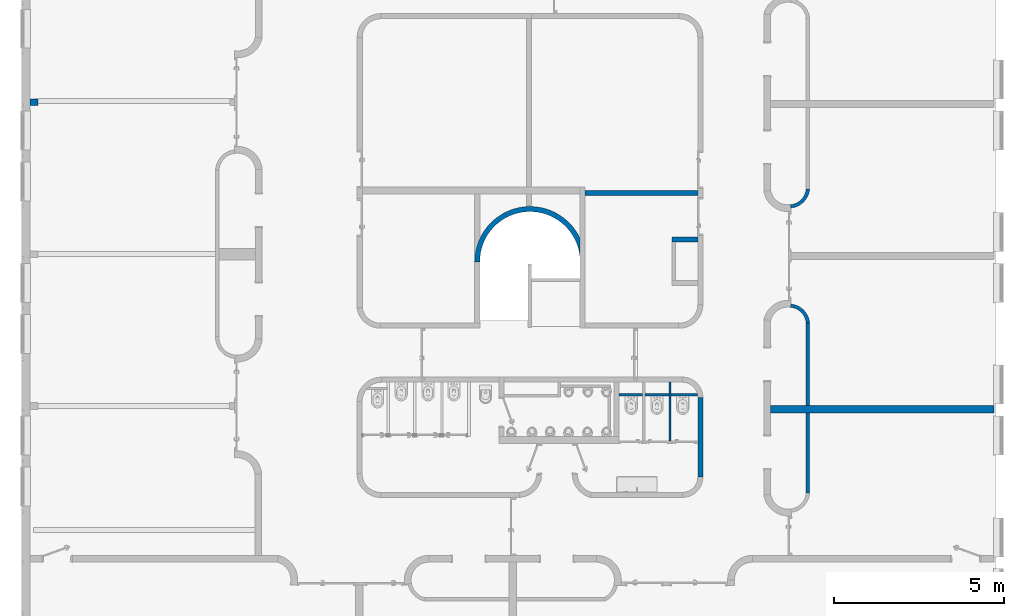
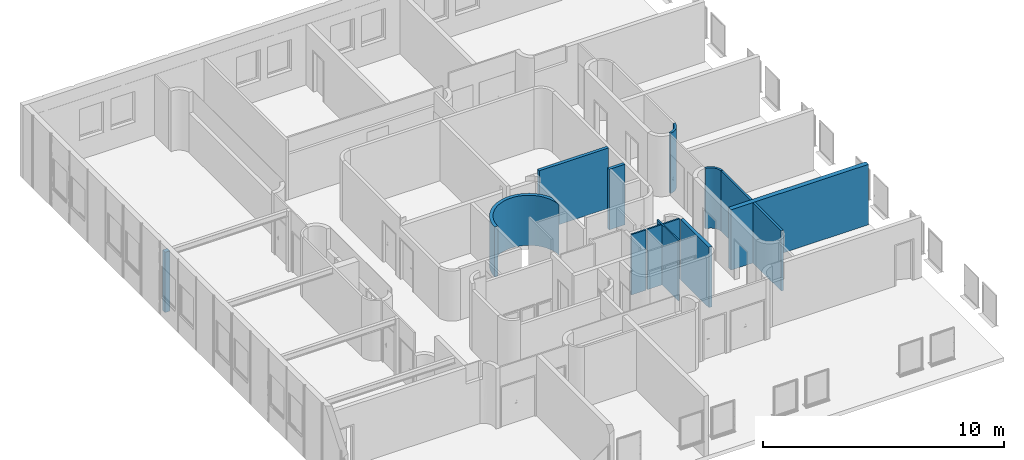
# One storey, part 2 of 7: 11 walls.
"""IFC2X3 building model written with IfcOpenShell, lengths in metres."""

from ifc_helpers import new_model, entity, si_unit, converted_unit, derived_unit, direction, frame, frame_2d, origin, place, context, subcontext, project, spatial, polyline, circle_curve, parameter, trimmed, segment, composite_curve, rectangle, outline, extrude, clip, halfspace, bounded_halfspace, material, layer, layer_set, layer_usage, type_object, element, save


model = new_model("IFC2X3")

# Units and contexts
model_context = context("Model", 3, precision=1e-05, world=origin(), true_north=direction((6.12303176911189e-17, 1.0)))
body_context = subcontext(model_context, "Body", "Model", "MODEL_VIEW")
ifc_project = project(units=[si_unit("LENGTHUNIT", "METRE"), si_unit("AREAUNIT", "SQUARE_METRE"), si_unit("VOLUMEUNIT", "CUBIC_METRE"), converted_unit("PLANEANGLEUNIT", "DEGREE", entity("IfcRatioMeasure", 0.0174532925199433), si_unit("PLANEANGLEUNIT", "RADIAN"), dimensions=[0, 0, 0, 0, 0, 0, 0]), si_unit("MASSUNIT", "GRAM", prefix="KILO"), derived_unit("MASSDENSITYUNIT", [(si_unit("MASSUNIT", "GRAM", prefix="KILO"), 1), (si_unit("LENGTHUNIT", "METRE"), -3)]), derived_unit("MOMENTOFINERTIAUNIT", [(si_unit("LENGTHUNIT", "METRE"), 4)]), si_unit("TIMEUNIT", "SECOND"), si_unit("FREQUENCYUNIT", "HERTZ"), si_unit("THERMODYNAMICTEMPERATUREUNIT", "DEGREE_CELSIUS"), derived_unit("THERMALTRANSMITTANCEUNIT", [(si_unit("MASSUNIT", "GRAM", prefix="KILO"), 1), (si_unit("THERMODYNAMICTEMPERATUREUNIT", "KELVIN"), -1), (si_unit("TIMEUNIT", "SECOND"), -3)]), derived_unit("VOLUMETRICFLOWRATEUNIT", [(si_unit("LENGTHUNIT", "METRE"), 3), (si_unit("TIMEUNIT", "SECOND"), -1)]), si_unit("ELECTRICCURRENTUNIT", "AMPERE"), si_unit("ELECTRICVOLTAGEUNIT", "VOLT"), si_unit("POWERUNIT", "WATT"), si_unit("FORCEUNIT", "NEWTON", prefix="KILO"), si_unit("ILLUMINANCEUNIT", "LUX"), si_unit("LUMINOUSFLUXUNIT", "LUMEN"), si_unit("LUMINOUSINTENSITYUNIT", "CANDELA"), derived_unit("USERDEFINED", [(si_unit("MASSUNIT", "GRAM", prefix="KILO"), -1), (si_unit("LENGTHUNIT", "METRE"), -2), (si_unit("TIMEUNIT", "SECOND"), 3), (si_unit("LUMINOUSFLUXUNIT", "LUMEN"), 1)]), derived_unit("LINEARVELOCITYUNIT", [(si_unit("LENGTHUNIT", "METRE"), 1), (si_unit("TIMEUNIT", "SECOND"), -1)]), si_unit("PRESSUREUNIT", "PASCAL"), derived_unit("USERDEFINED", [(si_unit("LENGTHUNIT", "METRE"), -2), (si_unit("MASSUNIT", "GRAM", prefix="KILO"), 1), (si_unit("TIMEUNIT", "SECOND"), -2)]), derived_unit("LINEARFORCEUNIT", [(si_unit("MASSUNIT", "GRAM", prefix="KILO"), 1), (si_unit("LENGTHUNIT", "METRE"), 1), (si_unit("TIMEUNIT", "SECOND"), -2), (si_unit("LENGTHUNIT", "METRE"), -1)]), derived_unit("PLANARFORCEUNIT", [(si_unit("MASSUNIT", "GRAM", prefix="KILO"), 1), (si_unit("LENGTHUNIT", "METRE"), 1), (si_unit("TIMEUNIT", "SECOND"), -2), (si_unit("LENGTHUNIT", "METRE"), -2)])], contexts=[model_context])

# Site, building, storey
site_placement = place(None, origin())
site = spatial("IfcSite", under=ifc_project, at=site_placement, Name="Default", CompositionType="ELEMENT")
building_placement = place(site_placement, origin())
building = spatial("IfcBuilding", under=site, at=building_placement, CompositionType="ELEMENT")
storey_placement = place(building_placement, frame((0.0, 0.0, 7.36730827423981)))
storey = spatial("IfcBuildingStorey", under=building, at=storey_placement, Name="Niveau 2", CompositionType="ELEMENT", Elevation=7.36730827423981)

# Walls
ifc_material_1 = material(Name="Maçonnerie - Voile BA")
ifc_layer_1 = layer(ifc_material_1, 0.2)
ifc_layer_set_1 = layer_set([ifc_layer_1], Name="Mur de base:Ext. Voile BA 200")
ifc_layer_usage_1 = layer_usage(ifc_layer_set_1, "AXIS2", "NEGATIVE", 0.1)
wall_type_1 = type_object("IfcWallType", Name="Mur de base:Ext. Voile BA 200", PredefinedType="STANDARD", material=ifc_layer_set_1)
wall_1_placement = place(storey_placement, frame((-25.5939891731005, -0.6616883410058, 0.0)))
element("IfcWallStandardCase", 1, at=wall_1_placement, inside=storey, type_object=wall_type_1, material=ifc_layer_usage_1, Name="Mur de base:Ext. Voile BA 200", ObjectType="Mur de base:Ext. Voile BA 200", context=body_context, shape_type="Clipping", body=[
    clip(extrude(rectangle(XDim=0.232473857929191, YDim=0.2, at=frame_2d((0.116236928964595, -1.38777878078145e-17), x_axis=(-1.0, 0.0))), origin(), (0.0, 0.0, 1.0), 3.05600000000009), bounded_halfspace(frame((0.0, -0.1, 3.05600000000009), z_axis=(0.0, 0.0, -1.0), x_axis=(0.0, 1.0, 0.0)), True, frame((0.0, -0.1, 3.05600000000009)), polyline([(0.0, 0.0), (0.232473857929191, 0.0), (0.23247385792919, 0.2), (0.0, 0.2), (0.0, 0.0)]))),
])
ifc_material_2 = material(Name="Brique 55x220")
ifc_layer_2 = layer(ifc_material_2, 0.01)
ifc_layer_3 = layer(ifc_material_1, 0.2)
ifc_layer_4 = layer(ifc_material_2, 0.01)
ifc_layer_set_2 = layer_set([ifc_layer_2, ifc_layer_3, ifc_layer_4], Name="Mur de base:Ext. Voile BA 200 Brique")
ifc_layer_usage_2 = layer_usage(ifc_layer_set_2, "AXIS2", "POSITIVE", -0.11)
wall_type_2 = type_object("IfcWallType", Name="Mur de base:Ext. Voile BA 200 Brique", PredefinedType="STANDARD", material=ifc_layer_set_2)
wall_2_placement = place(storey_placement, frame((-3.74398917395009, -9.72374943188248, 0.0)))
element("IfcWallStandardCase", 2, at=wall_2_placement, inside=storey, type_object=wall_type_2, material=ifc_layer_usage_2, Name="Mur de base:Ext. Voile BA 200 Brique", ObjectType="Mur de base:Ext. Voile BA 200 Brique", context=body_context, shape_type="Clipping", body=[
    clip(extrude(rectangle(XDim=6.5914574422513, YDim=0.220000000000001, at=frame_2d((3.29572872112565, -1.10328413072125e-15), x_axis=(-1.0, 0.0))), origin(), (0.0, 0.0, 1.0), 3.05600000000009), bounded_halfspace(frame((0.0, -0.110000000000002, 3.05600000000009), z_axis=(0.0, 0.0, -1.0), x_axis=(0.0, 1.0, 0.0)), True, frame((0.0, -0.110000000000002, 3.05600000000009)), polyline([(0.0, 0.0), (1.04990904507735, 0.0), (1.14990904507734, 0.0), (6.59145744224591, 0.0), (6.59145744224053, 0.220000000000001), (1.14990904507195, 0.220000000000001), (1.04990904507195, 0.220000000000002), (0.0, 0.220000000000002), (0.0, 0.0)]))),
])
ifc_material_3 = material(Name="Mur par défaut")
ifc_layer_5 = layer(ifc_material_3, 0.1)
ifc_layer_set_3 = layer_set([ifc_layer_5], Name="Mur de base:@_Générique - Int. 100 mm")
wall_type_3 = type_object("IfcWallType", Name="Mur de base:@_Générique - Int. 100 mm", PredefinedType="STANDARD", material=ifc_layer_set_3)
wall_3_placement = place(storey_placement, frame((-2.64408012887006, -12.1855995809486, 0.0), z_axis=(0.0, 0.0, 1.0), x_axis=(0.0, 1.0, 0.0)))
element("IfcWall", 3, at=wall_3_placement, inside=storey, type_object=wall_type_3, Name="Mur de base:@_Générique - Int. 100 mm", ObjectType="Mur de base:@_Générique - Int. 100 mm", context=body_context, shape_type="SweptSolid", body=[
    extrude(outline(polyline([(-1.17693812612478, -0.0500000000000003), (1.17491202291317, -0.0500000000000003), (1.17491202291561, 0.0499999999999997), (-1.172885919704, 0.0499999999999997), (-1.17693812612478, -0.0500000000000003)])), frame((1.17693812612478, 0.0, 0.0)), (0.0, 0.0, 1.0), 3.05600000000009),
    extrude(outline(polyline([(-1.21505255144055, -0.0500000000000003), (1.21710552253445, -0.0500000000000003), (1.2171055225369, 0.0499999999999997), (-1.21915849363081, 0.0499999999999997), (-1.21505255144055, -0.0500000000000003)])), frame((3.78895567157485, 0.0, 0.0), z_axis=(0.0, 0.0, 1.0), x_axis=(-1.0, 0.0, 0.0)), (0.0, 0.0, 1.0), 3.05600000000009),
])
ifc_layer_usage_3 = layer_usage(ifc_layer_set_3, "AXIS2", "NEGATIVE", 0.05)
wall_4_placement = place(storey_placement, frame((-2.64392581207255, -7.18141070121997, 0.0), z_axis=(0.0, 0.0, 1.0), x_axis=(0.984807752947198, -0.17364817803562, 0.0)))
element("IfcWallStandardCase", 4, at=wall_4_placement, inside=storey, type_object=wall_type_3, material=ifc_layer_usage_3, Name="Mur de base:@_Générique - Int. 100 mm", ObjectType="Mur de base:@_Générique - Int. 100 mm", context=body_context, shape_type="Clipping", body=[
    clip(extrude(outline(composite_curve([segment(trimmed(circle_curve(frame_2d((-0.546996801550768, -0.14149027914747), x_axis=(1.0, 0.0)), 0.515), [parameter(14.9206973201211)], [parameter(94.3281832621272)], True, "PARAMETER"), False, "CONTINUOUS"), segment(polyline([(-0.0493609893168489, -0.00888711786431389), (0.0484067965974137, 0.0125212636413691)]), True, "CONTINUOUS"), segment(trimmed(circle_curve(frame_2d((-0.546996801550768, -0.14149027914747), x_axis=(1.0, 0.0)), 0.615), [parameter(14.5026790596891)], [parameter(94.3281832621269)], True, "PARAMETER"), True, "CONTINUOUS"), segment(polyline([(-0.593410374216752, 0.471755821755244), (-0.585863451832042, 0.37204100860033)]), True, "CONTINUOUS")], self_intersect=False)), origin(), (0.0, 0.0, 1.0), 3.05600000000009), halfspace(frame((-0.585863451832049, 0.372041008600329, 3.05600000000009), z_axis=(0.0, 0.0, -1.0), x_axis=(-0.17364817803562, 0.984807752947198, 0.0)), True)),
])
ifc_layer_usage_4 = layer_usage(ifc_layer_set_3, "AXIS2", "NEGATIVE", 0.05)
wall_5_placement = place(storey_placement, frame((-2.64392581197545, -3.2162084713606, 0.0), z_axis=(0.0, 0.0, 1.0), x_axis=(0.984807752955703, 0.173648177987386, 0.0)))
element("IfcWallStandardCase", 5, at=wall_5_placement, inside=storey, type_object=wall_type_3, material=ifc_layer_usage_4, Name="Mur de base:@_Générique - Int. 100 mm", ObjectType="Mur de base:@_Générique - Int. 100 mm", context=body_context, shape_type="Clipping", body=[
    clip(extrude(outline(polyline([(-0.596526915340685, -0.471511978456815), (-0.593332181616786, -0.471759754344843), (-0.507749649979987, -0.472256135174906), (-0.422903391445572, -0.460859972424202), (-0.34046164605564, -0.437792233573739), (-0.262021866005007, -0.403499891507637), (-0.189103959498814, -0.358647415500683), (-0.12312083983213, -0.304103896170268), (-0.0653510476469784, -0.240926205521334), (-0.0169139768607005, -0.170338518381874), (0.0212518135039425, -0.093708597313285), (0.0484067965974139, -0.012521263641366), (-0.0493609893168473, 0.00888711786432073), (-0.0751435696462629, -0.0648577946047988), (-0.111783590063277, -0.133853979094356), (-0.158438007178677, -0.196514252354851), (-0.214033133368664, -0.251396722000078), (-0.277289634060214, -0.297238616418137), (-0.346751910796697, -0.332985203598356), (-0.420821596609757, -0.357814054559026), (-0.497794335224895, -0.371153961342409), (-0.575806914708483, -0.372695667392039), (-0.588473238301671, -0.371836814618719), (-0.596526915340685, -0.471511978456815)])), origin(), (0.0, 0.0, 1.0), 3.05600000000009), bounded_halfspace(frame((-0.596526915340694, -0.471511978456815, 3.05600000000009), z_axis=(0.0, 0.0, -1.0), x_axis=(0.173648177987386, 0.984807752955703, 0.0)), True, frame((-0.596526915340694, -0.471511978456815, 3.05600000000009)), composite_curve([segment(trimmed(circle_curve(frame_2d((0.0150967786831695, 0.186843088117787), x_axis=(1.0, 0.0)), 0.615), [parameter(265.38058002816)], [parameter(265.677292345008)], True, "PARAMETER"), True, "CONTINUOUS"), segment(trimmed(circle_curve(frame_2d((0.0150967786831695, 0.186843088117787), x_axis=(1.0, 0.0)), 0.615), [parameter(265.677292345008)], [parameter(345.49732094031)], True, "PARAMETER"), True, "CONTINUOUS"), segment(polyline([(0.196575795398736, 0.139900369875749), (0.166776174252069, 0.146425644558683)]), True, "CONTINUOUS"), segment(trimmed(circle_curve(frame_2d((0.0150967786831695, 0.186843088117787), x_axis=(1.0, 0.0)), 0.515), [parameter(266.784433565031)], [parameter(345.079302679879)], True, "PARAMETER"), False, "CONTINUOUS"), segment(trimmed(circle_curve(frame_2d((0.0150967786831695, 0.186843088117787), x_axis=(1.0, 0.0)), 0.515), [parameter(265.38058002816)], [parameter(266.784433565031)], True, "PARAMETER"), False, "CONTINUOUS"), segment(polyline([(0.00245476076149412, 0.0303809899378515), (0.0, 0.0)]), True, "CONTINUOUS")], self_intersect=False))),
])
ifc_layer_6 = layer(ifc_material_1, 0.15)
ifc_layer_set_4 = layer_set([ifc_layer_6], Name="Mur de base:Ext. Voile BA 150")
ifc_layer_usage_5 = layer_usage(ifc_layer_set_4, "AXIS2", "NEGATIVE", 0.075)
wall_type_4 = type_object("IfcWallType", Name="Mur de base:Ext. Voile BA 150", PredefinedType="STANDARD", material=ifc_layer_set_4)
wall_6_placement = place(storey_placement, frame((-5.8939891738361, -3.34411513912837, 0.0), z_axis=(0.0, 0.0, 1.0), x_axis=(-1.0, 0.0, 0.0)))
element("IfcWallStandardCase", 6, at=wall_6_placement, inside=storey, type_object=wall_type_4, material=ifc_layer_usage_5, Name="Mur de base:Ext. Voile BA 150", ObjectType="Mur de base:Ext. Voile BA 150", context=body_context, shape_type="Clipping", body=[
    clip(extrude(rectangle(XDim=3.31999999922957, YDim=0.149999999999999, at=frame_2d((1.65999999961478, 1.73472347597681e-16), x_axis=(-1.0, 0.0))), origin(), (0.0, 0.0, 1.0), 3.05600000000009), bounded_halfspace(frame((0.0, -0.0750000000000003, 3.05600000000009), z_axis=(0.0, 0.0, -1.0), x_axis=(0.0, -1.0, 0.0)), True, frame((0.0, -0.0750000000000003, 3.05600000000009)), polyline([(0.0, 0.0), (3.31999999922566, 0.0), (3.31999999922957, 0.150000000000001), (0.0, 0.15), (0.0, 0.0)]))),
])
ifc_layer_usage_6 = layer_usage(ifc_layer_set_4, "AXIS2", "NEGATIVE", 0.075)
wall_7_placement = place(storey_placement, frame((-9.28905251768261, -5.30521851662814, 0.0), z_axis=(0.0, 0.0, 1.0), x_axis=(-0.580872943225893, 0.813994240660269, 0.0)))
element("IfcWallStandardCase", 7, at=wall_7_placement, inside=storey, type_object=wall_type_4, material=ifc_layer_usage_6, Name="Mur de base:Ext. Voile BA 150", ObjectType="Mur de base:Ext. Voile BA 150", context=body_context, shape_type="Clipping", body=[
    clip(extrude(outline(composite_curve([segment(polyline([(0.0410200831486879, 0.0627881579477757), (0.549681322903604, -0.300196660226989)]), True, "CONTINUOUS"), segment(polyline([(0.549681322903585, -0.300196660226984), (0.6856873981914, -0.319840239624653)]), True, "CONTINUOUS"), segment(polyline([(0.6856873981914, -0.319840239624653), (0.822863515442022, -0.32795817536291)]), True, "CONTINUOUS"), segment(polyline([(0.822863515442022, -0.32795817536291), (0.960235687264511, -0.32449301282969)]), True, "CONTINUOUS"), segment(polyline([(0.960235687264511, -0.32449301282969), (1.0968273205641, -0.309469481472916)]), True, "CONTINUOUS"), segment(polyline([(1.0968273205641, -0.309469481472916), (1.23166769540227, -0.28299447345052)]), True, "CONTINUOUS"), segment(polyline([(1.23166769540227, -0.28299447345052), (1.36379855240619, -0.245256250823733)]), True, "CONTINUOUS"), segment(polyline([(1.36379855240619, -0.245256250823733), (1.49228090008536, -0.196523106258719)]), True, "CONTINUOUS"), segment(polyline([(1.49228090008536, -0.196523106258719), (1.6162016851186, -0.137141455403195)]), True, "CONTINUOUS"), segment(polyline([(1.6162016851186, -0.137141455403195), (1.7346802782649, -0.0675333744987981)]), True, "CONTINUOUS"), segment(polyline([(1.7346802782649, -0.0675333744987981), (1.84687472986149, 0.0118063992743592)]), True, "CONTINUOUS"), segment(polyline([(1.84687472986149, 0.0118063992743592), (1.95198775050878, 0.100313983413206)]), True, "CONTINUOUS"), segment(polyline([(1.95198775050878, 0.100313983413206), (2.04927237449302, 0.19736035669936)]), True, "CONTINUOUS"), segment(polyline([(2.04927237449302, 0.19736035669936), (2.13803726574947, 0.30225582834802)]), True, "CONTINUOUS"), segment(polyline([(2.13803726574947, 0.30225582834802), (2.21765162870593, 0.414254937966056)]), True, "CONTINUOUS"), segment(polyline([(2.21765162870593, 0.414254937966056), (2.28754968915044, 0.532561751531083)]), True, "CONTINUOUS"), segment(polyline([(2.28754968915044, 0.532561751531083), (2.34723471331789, 0.656335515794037)]), True, "CONTINUOUS"), segment(polyline([(2.34723471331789, 0.656335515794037), (2.39628253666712, 0.784696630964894)]), True, "CONTINUOUS"), segment(polyline([(2.39628253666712, 0.784696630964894), (2.4343445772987, 0.916732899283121)]), True, "CONTINUOUS"), segment(polyline([(2.4343445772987, 0.916732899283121), (2.46115031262, 1.05150600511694)]), True, "CONTINUOUS"), segment(polyline([(2.46115031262, 1.05150600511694), (2.47650920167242, 1.18805818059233)]), True, "CONTINUOUS"), segment(polyline([(2.47650920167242, 1.18805818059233), (2.48031203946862, 1.32541900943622)]), True, "CONTINUOUS"), segment(polyline([(2.48031203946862, 1.32541900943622), (2.47253173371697, 1.46261232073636)]), True, "CONTINUOUS"), segment(polyline([(2.47253173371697, 1.46261232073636), (2.45322349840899, 1.59866312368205)]), True, "CONTINUOUS"), segment(polyline([(2.45322349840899, 1.59866312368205), (2.42252446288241, 1.73260453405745)]), True, "CONTINUOUS"), segment(polyline([(2.42252446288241, 1.73260453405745), (2.38065269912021, 1.86348464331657)]), True, "CONTINUOUS"), segment(polyline([(2.38065269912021, 1.86348464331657), (2.32790567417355, 1.9903732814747)]), True, "CONTINUOUS"), segment(polyline([(2.32790567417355, 1.9903732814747), (2.26466053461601, 2.11236414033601)]), True, "CONTINUOUS"), segment(polyline([(2.26466053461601, 2.11236414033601), (2.18970940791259, 2.23098636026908)]), True, "CONTINUOUS"), segment(polyline([(2.18970940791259, 2.23098636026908), (2.10483702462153, 2.34271900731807)]), True, "CONTINUOUS"), segment(polyline([(2.10483702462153, 2.34271900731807), (2.01066986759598, 2.44673862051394)]), True, "CONTINUOUS"), segment(polyline([(2.01066986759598, 2.44673862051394), (1.90790573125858, 2.54227436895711)]), True, "CONTINUOUS"), segment(polyline([(1.90790573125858, 2.54227436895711), (1.79730595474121, 2.6286184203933)]), True, "CONTINUOUS"), segment(polyline([(1.7973059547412, 2.62861842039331), (1.71017501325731, 2.50651928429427)]), True, "CONTINUOUS"), segment(trimmed(circle_curve(frame_2d((0.850483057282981, 1.30180780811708), x_axis=(1.0, 0.0)), 1.48), [parameter(236.843043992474)], [parameter(54.4880357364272)], True, "PARAMETER"), False, "CONTINUOUS")], self_intersect=False)), origin(), (0.0, 0.0, 1.0), 2.5360000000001), bounded_halfspace(frame((1.71017501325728, 2.50651928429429, 2.5360000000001), z_axis=(0.0, 0.0, -1.0), x_axis=(0.813994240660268, -0.580872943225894, 0.0)), True, frame((1.71017501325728, 2.50651928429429, 2.5360000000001), z_axis=(0.0, 0.0, -1.0), x_axis=(0.813994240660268, -0.580872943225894, 0.0)), composite_curve([segment(polyline([(0.0, 0.0), (0.0, -0.00038100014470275)]), True, "CONTINUOUS"), segment(polyline([(0.0, -0.00038100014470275), (0.0, -0.045720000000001)]), True, "CONTINUOUS"), segment(trimmed(circle_curve(frame_2d((0.0, 0.451104), x_axis=(0.813994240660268, -0.580872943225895)), 1.63), [parameter(305.511964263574)], [parameter(330.179838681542)], True, "PARAMETER"), True, "CONTINUOUS"), segment(trimmed(circle_curve(frame_2d((0.0, 0.451104), x_axis=(0.813994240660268, -0.580872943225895)), 1.63), [parameter(330.179838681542)], [parameter(100.634369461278)], True, "PARAMETER"), True, "CONTINUOUS"), segment(polyline([(0.209004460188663, 0.901826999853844), (0.0185363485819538, 0.901826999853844)]), True, "CONTINUOUS"), segment(trimmed(circle_curve(frame_2d((0.0, 0.451104), x_axis=(0.813994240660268, -0.580872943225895)), 1.48), [parameter(305.511964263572)], [parameter(123.156956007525)], True, "PARAMETER"), False, "CONTINUOUS")], self_intersect=False))),
])
ifc_layer_usage_7 = layer_usage(ifc_layer_set_4, "AXIS2", "NEGATIVE", 0.075)
wall_8_placement = place(storey_placement, frame((-5.8939891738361, -4.70912808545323, 0.0), z_axis=(0.0, 0.0, 1.0), x_axis=(-1.0, 0.0, 0.0)))
element("IfcWallStandardCase", 8, at=wall_8_placement, inside=storey, type_object=wall_type_4, material=ifc_layer_usage_7, Name="Mur de base:Ext. Voile BA 150", ObjectType="Mur de base:Ext. Voile BA 150", context=body_context, shape_type="Clipping", body=[
    clip(extrude(rectangle(XDim=0.756621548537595, YDim=0.149999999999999, at=frame_2d((0.378310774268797, 1.31838984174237e-16), x_axis=(-1.0, 0.0))), origin(), (0.0, 0.0, 1.0), 3.05600000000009), bounded_halfspace(frame((0.0, -0.0750000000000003, 3.05600000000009), z_axis=(0.0, 0.0, -1.0), x_axis=(0.0, -1.0, 0.0)), True, frame((0.0, -0.0750000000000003, 3.05600000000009)), polyline([(0.0, 0.0), (0.756621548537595, 0.0), (0.756621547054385, 0.15), (0.656621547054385, 0.150000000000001), (0.0, 0.15), (0.0, 0.0)]))),
])
ifc_layer_7 = layer(ifc_material_3, 0.15)
ifc_layer_set_5 = layer_set([ifc_layer_7], Name="Mur de base:@_Générique - Int. 150 mm")
ifc_layer_usage_8 = layer_usage(ifc_layer_set_5, "AXIS2", "NEGATIVE", 0.075)
wall_type_5 = type_object("IfcWallType", Name="Mur de base:@_Générique - Int. 150 mm", PredefinedType="STANDARD", material=ifc_layer_set_5)
wall_9_placement = place(storey_placement, frame((-5.81898916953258, -9.37125785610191, 0.0), z_axis=(0.0, 0.0, 1.0), x_axis=(0.0, -1.0, 0.0)))
element("IfcWallStandardCase", 9, at=wall_9_placement, inside=storey, type_object=wall_type_5, material=ifc_layer_usage_8, Name="Mur de base:@_Générique - Int. 150 mm", ObjectType="Mur de base:@_Générique - Int. 150 mm", context=body_context, shape_type="Clipping", body=[
    clip(extrude(rectangle(XDim=2.34781436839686, YDim=0.150000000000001, at=frame_2d((1.17390718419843, 1.11022302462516e-16), x_axis=(-1.0, 0.0))), origin(), (0.0, 0.0, 1.0), 3.05600000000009), bounded_halfspace(frame((0.0, -0.0749999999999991, 3.05600000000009), z_axis=(0.0, 0.0, -1.0), x_axis=(-1.0, 0.0, 0.0)), True, frame((0.0, -0.0749999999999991, 3.05600000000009)), polyline([(0.0, 0.0), (2.34781436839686, 0.0), (2.34781436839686, 0.15), (0.0, 0.149999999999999), (0.0, 0.0)]))),
])
ifc_layer_8 = layer(ifc_material_3, 0.07)
ifc_layer_set_6 = layer_set([ifc_layer_8], Name="Mur de base:@_Générique - Int. 70 mm")
ifc_layer_usage_9 = layer_usage(ifc_layer_set_6, "AXIS2", "NEGATIVE", 0.035)
wall_type_6 = type_object("IfcWallType", Name="Mur de base:@_Générique - Int. 70 mm", PredefinedType="STANDARD", material=ifc_layer_set_6)
wall_10_placement = place(storey_placement, frame((-6.71229879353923, -8.92125785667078, 0.0), z_axis=(0.0, 0.0, 1.0), x_axis=(0.0, -1.0, 0.0)))
element("IfcWallStandardCase", 10, at=wall_10_placement, inside=storey, type_object=wall_type_6, material=ifc_layer_usage_9, Name="Mur de base:@_Générique - Int. 70 mm", ObjectType="Mur de base:@_Générique - Int. 70 mm", context=body_context, shape_type="Clipping", body=[
    clip(extrude(rectangle(XDim=1.7360824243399, YDim=0.0699999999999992, at=frame_2d((0.86804121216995, -4.82253126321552e-16), x_axis=(-1.0, 0.0))), origin(), (0.0, 0.0, 1.0), 3.05600000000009), bounded_halfspace(frame((0.0, -0.0350000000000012, 3.05600000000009), z_axis=(0.0, 0.0, -1.0), x_axis=(-1.0, 0.0, 0.0)), True, frame((0.0, -0.0350000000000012, 3.05600000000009)), polyline([(0.0, 0.0), (0.330357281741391, 0.0), (0.400357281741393, 0.0), (1.7360824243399, 0.0), (1.73608242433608, 0.0699999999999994), (0.40035728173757, 0.0699999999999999), (0.330357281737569, 0.0700000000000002), (0.0, 0.0700000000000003), (0.0, 0.0)]))),
])
wall_11_placement = place(storey_placement, frame((-5.89673577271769, -9.28661513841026, 0.0), z_axis=(0.0, 0.0, 1.0), x_axis=(-1.0, 0.0, 0.0)))
element("IfcWall", 11, at=wall_11_placement, inside=storey, type_object=wall_type_6, Name="Mur de base:@_Générique - Int. 70 mm", ObjectType="Mur de base:@_Générique - Int. 70 mm", context=body_context, shape_type="SweptSolid", body=[
    extrude(outline(composite_curve([segment(polyline([(-0.380194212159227, -0.0349999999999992), (0.386919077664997, -0.035)]), True, "CONTINUOUS"), segment(polyline([(0.386919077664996, -0.0350000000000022), (0.386919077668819, 0.0349999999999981)]), True, "CONTINUOUS"), segment(polyline([(0.386919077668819, 0.0350000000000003), (-0.393643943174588, 0.0350000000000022)]), True, "CONTINUOUS"), segment(trimmed(circle_curve(frame_2d((0.0536094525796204, 0.0846427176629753), x_axis=(0.0, -1.0)), 0.449999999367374), [parameter(276.333598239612)], [parameter(285.41881560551)], True, "PARAMETER"), True, "CONTINUOUS")], self_intersect=False)), frame((0.393643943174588, 0.0, 0.0)), (0.0, 0.0, 1.0), 3.05600000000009),
    extrude(rectangle(XDim=0.7, YDim=0.0700000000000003, at=frame_2d((0.0, -1.08246744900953e-15), x_axis=(1.0, 0.0))), frame((1.9705630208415, 0.0, 0.0), z_axis=(0.0, 0.0, 1.0), x_axis=(-1.0, 0.0, 0.0)), (0.0, 0.0, 1.0), 3.05600000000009),
    extrude(rectangle(XDim=0.7, YDim=0.0700000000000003, at=frame_2d((0.0, -5.41233724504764e-16), x_axis=(1.0, 0.0))), frame((1.2005630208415, 0.0, 0.0), z_axis=(0.0, 0.0, 1.0), x_axis=(-1.0, 0.0, 0.0)), (0.0, 0.0, 1.0), 3.05600000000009),
])

save(model, "model.ifc")
